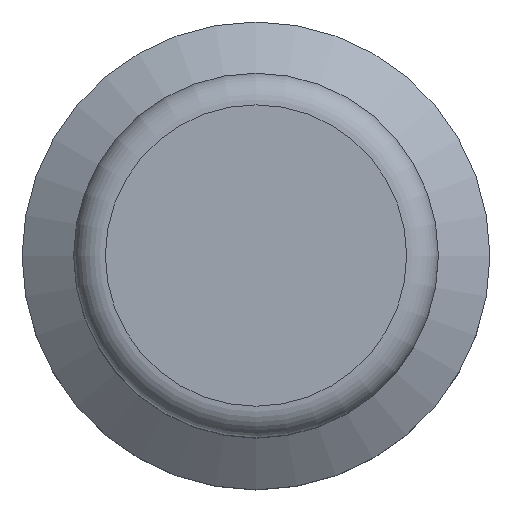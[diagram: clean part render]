
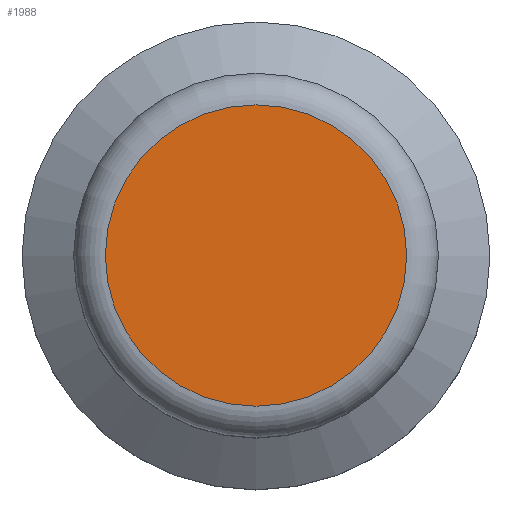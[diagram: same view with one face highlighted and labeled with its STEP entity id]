
A CAD part, top view. The second image highlights one B-rep face of the part: STEP entity #1988.
In plain terms, the highlighted planar face has unit normal (0, 0, 1).
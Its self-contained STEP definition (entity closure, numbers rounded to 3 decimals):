
#110=CIRCLE('',#2301,9.5);
#246=PLANE('',#2303);
#392=FACE_OUTER_BOUND('',#611,.T.);
#611=EDGE_LOOP('',(#1424));
#995=VERTEX_POINT('',#3704);
#1159=EDGE_CURVE('',#995,#995,#110,.T.);
#1424=ORIENTED_EDGE('',*,*,#1159,.T.);
#1988=ADVANCED_FACE('',(#392),#246,.T.);
#2301=AXIS2_PLACEMENT_3D('',#3705,#2695,#2696);
#2303=AXIS2_PLACEMENT_3D('',#3707,#2699,#2700);
#2695=DIRECTION('center_axis',(0.,0.,1.));
#2696=DIRECTION('ref_axis',(1.,0.,0.));
#2699=DIRECTION('center_axis',(0.,0.,1.));
#2700=DIRECTION('ref_axis',(1.,0.,0.));
#3704=CARTESIAN_POINT('',(-9.5,0.,0.));
#3705=CARTESIAN_POINT('Origin',(0.,0.,0.));
#3707=CARTESIAN_POINT('Origin',(0.,0.,0.));
